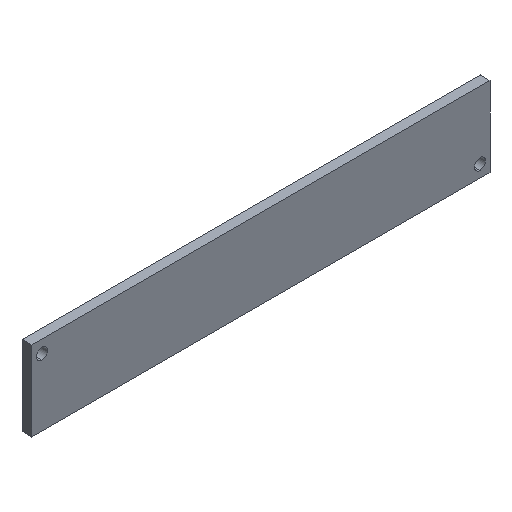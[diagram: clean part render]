
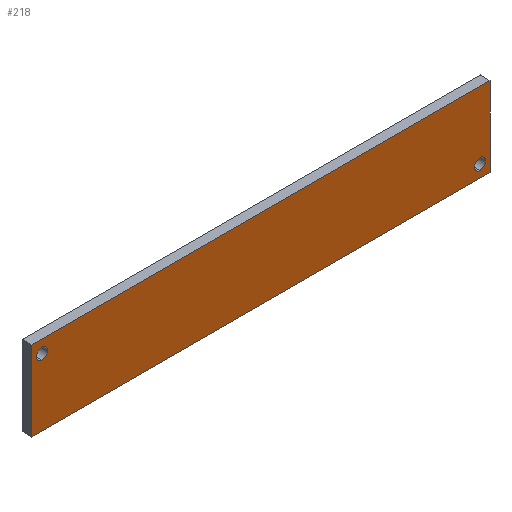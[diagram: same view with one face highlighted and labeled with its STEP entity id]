
A CAD part, isometric view. The second image highlights one B-rep face of the part: STEP entity #218.
In plain terms, the highlighted planar face has unit normal (0, -1, 0).
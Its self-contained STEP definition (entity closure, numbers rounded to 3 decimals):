
#3 = VERTEX_POINT ( 'NONE', #115 ) ;
#5 = VERTEX_POINT ( 'NONE', #38 ) ;
#7 = AXIS2_PLACEMENT_3D ( 'NONE', #262, #47, #45 ) ;
#10 = VERTEX_POINT ( 'NONE', #195 ) ;
#17 = CARTESIAN_POINT ( 'NONE',  ( 90., 0., -14.6 ) ) ;
#26 = VECTOR ( 'NONE', #71, 1000. ) ;
#34 = ORIENTED_EDGE ( 'NONE', *, *, #157, .T. ) ;
#36 = CIRCLE ( 'NONE', #72, 1.1 ) ;
#38 = CARTESIAN_POINT ( 'NONE',  ( 92., 0., 0. ) ) ;
#39 = LINE ( 'NONE', #336, #63 ) ;
#44 = DIRECTION ( 'NONE',  ( 0., 0., 1. ) ) ;
#45 = DIRECTION ( 'NONE',  ( 0., 0., 1. ) ) ;
#47 = DIRECTION ( 'NONE',  ( 0., 1., 0. ) ) ;
#52 = CARTESIAN_POINT ( 'NONE',  ( 0., 0., 0. ) ) ;
#59 = EDGE_CURVE ( 'NONE', #246, #161, #88, .T. ) ;
#63 = VECTOR ( 'NONE', #257, 1000. ) ;
#65 = DIRECTION ( 'NONE',  ( 0., 0., 1. ) ) ;
#71 = DIRECTION ( 'NONE',  ( -1., 0., 0. ) ) ;
#72 = AXIS2_PLACEMENT_3D ( 'NONE', #313, #237, #284 ) ;
#76 = EDGE_CURVE ( 'NONE', #10, #83, #155, .T. ) ;
#83 = VERTEX_POINT ( 'NONE', #17 ) ;
#85 = EDGE_LOOP ( 'NONE', ( #242, #132 ) ) ;
#88 = LINE ( 'NONE', #192, #309 ) ;
#94 = DIRECTION ( 'NONE',  ( 0., 0., 1. ) ) ;
#98 = EDGE_CURVE ( 'NONE', #3, #112, #229, .T. ) ;
#102 = EDGE_CURVE ( 'NONE', #161, #5, #39, .T. ) ;
#106 = ORIENTED_EDGE ( 'NONE', *, *, #98, .T. ) ;
#112 = VERTEX_POINT ( 'NONE', #236 ) ;
#115 = CARTESIAN_POINT ( 'NONE',  ( 2., 0., -3.6 ) ) ;
#117 = DIRECTION ( 'NONE',  ( 0., 1., 0. ) ) ;
#122 = DIRECTION ( 'NONE',  ( 0., -1., 0. ) ) ;
#123 = FACE_OUTER_BOUND ( 'NONE', #160, .T. ) ;
#132 = ORIENTED_EDGE ( 'NONE', *, *, #194, .T. ) ;
#133 = CARTESIAN_POINT ( 'NONE',  ( 92., 0., 0. ) ) ;
#155 = CIRCLE ( 'NONE', #252, 1.1 ) ;
#157 = EDGE_CURVE ( 'NONE', #112, #3, #235, .T. ) ;
#158 = DIRECTION ( 'NONE',  ( 0., 0., -1. ) ) ;
#159 = ORIENTED_EDGE ( 'NONE', *, *, #234, .F. ) ;
#160 = EDGE_LOOP ( 'NONE', ( #166, #159, #244, #294 ) ) ;
#161 = VERTEX_POINT ( 'NONE', #312 ) ;
#166 = ORIENTED_EDGE ( 'NONE', *, *, #59, .F. ) ;
#167 = AXIS2_PLACEMENT_3D ( 'NONE', #169, #228, #44 ) ;
#168 = CARTESIAN_POINT ( 'NONE',  ( 90., 0., -13.5 ) ) ;
#169 = CARTESIAN_POINT ( 'NONE',  ( 2., 0., -2.5 ) ) ;
#174 = CARTESIAN_POINT ( 'NONE',  ( 92., 0., -16. ) ) ;
#187 = VERTEX_POINT ( 'NONE', #174 ) ;
#192 = CARTESIAN_POINT ( 'NONE',  ( 0., 0., 0. ) ) ;
#194 = EDGE_CURVE ( 'NONE', #83, #10, #36, .T. ) ;
#195 = CARTESIAN_POINT ( 'NONE',  ( 90., 0., -12.4 ) ) ;
#205 = FACE_BOUND ( 'NONE', #85, .T. ) ;
#208 = AXIS2_PLACEMENT_3D ( 'NONE', #52, #122, #158 ) ;
#218 = ADVANCED_FACE ( 'NONE', ( #290, #205, #123 ), #258, .T. ) ;
#228 = DIRECTION ( 'NONE',  ( 0., 1., 0. ) ) ;
#229 = CIRCLE ( 'NONE', #167, 1.1 ) ;
#231 = CARTESIAN_POINT ( 'NONE',  ( 0., 0., -16. ) ) ;
#234 = EDGE_CURVE ( 'NONE', #187, #246, #263, .T. ) ;
#235 = CIRCLE ( 'NONE', #7, 1.1 ) ;
#236 = CARTESIAN_POINT ( 'NONE',  ( 2., 0., -1.4 ) ) ;
#237 = DIRECTION ( 'NONE',  ( 0., 1., 0. ) ) ;
#240 = EDGE_LOOP ( 'NONE', ( #34, #106 ) ) ;
#241 = LINE ( 'NONE', #133, #289 ) ;
#242 = ORIENTED_EDGE ( 'NONE', *, *, #76, .T. ) ;
#244 = ORIENTED_EDGE ( 'NONE', *, *, #301, .F. ) ;
#246 = VERTEX_POINT ( 'NONE', #342 ) ;
#252 = AXIS2_PLACEMENT_3D ( 'NONE', #168, #117, #65 ) ;
#257 = DIRECTION ( 'NONE',  ( 1., 0., 0. ) ) ;
#258 = PLANE ( 'NONE',  #208 ) ;
#262 = CARTESIAN_POINT ( 'NONE',  ( 2., 0., -2.5 ) ) ;
#263 = LINE ( 'NONE', #231, #26 ) ;
#264 = DIRECTION ( 'NONE',  ( 0., 0., -1. ) ) ;
#284 = DIRECTION ( 'NONE',  ( 0., 0., 1. ) ) ;
#289 = VECTOR ( 'NONE', #264, 1000. ) ;
#290 = FACE_BOUND ( 'NONE', #240, .T. ) ;
#294 = ORIENTED_EDGE ( 'NONE', *, *, #102, .F. ) ;
#301 = EDGE_CURVE ( 'NONE', #5, #187, #241, .T. ) ;
#309 = VECTOR ( 'NONE', #94, 1000. ) ;
#312 = CARTESIAN_POINT ( 'NONE',  ( 0., 0., 0. ) ) ;
#313 = CARTESIAN_POINT ( 'NONE',  ( 90., 0., -13.5 ) ) ;
#336 = CARTESIAN_POINT ( 'NONE',  ( 0., 0., 0. ) ) ;
#342 = CARTESIAN_POINT ( 'NONE',  ( 0., 0., -16. ) ) ;
